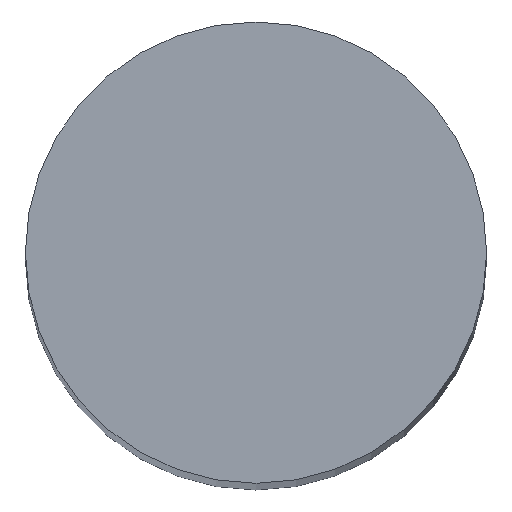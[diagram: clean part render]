
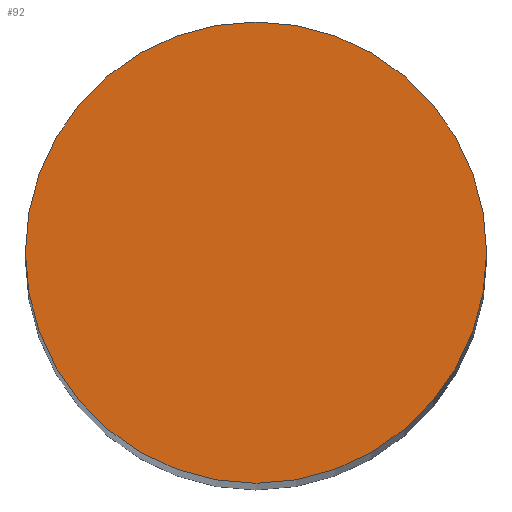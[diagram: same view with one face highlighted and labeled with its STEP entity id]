
A CAD part, top view. The second image highlights one B-rep face of the part: STEP entity #92.
In plain terms, the highlighted planar face has unit normal (0, 0, 1).
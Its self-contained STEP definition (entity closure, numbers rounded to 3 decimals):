
#16 = ORIENTED_EDGE ( 'NONE', *, *, #80, .T. ) ;
#80 = EDGE_CURVE ( 'NONE', #109, #109, #281, .T. ) ;
#92 = ADVANCED_FACE ( 'NONE', ( #245 ), #165, .T. ) ;
#109 = VERTEX_POINT ( 'NONE', #239 ) ;
#114 = CARTESIAN_POINT ( 'NONE',  ( 0., 0., 100. ) ) ;
#123 = AXIS2_PLACEMENT_3D ( 'NONE', #114, #139, #329 ) ;
#139 = DIRECTION ( 'NONE',  ( 0., 0., 1. ) ) ;
#161 = AXIS2_PLACEMENT_3D ( 'NONE', #223, #304, #267 ) ;
#165 = PLANE ( 'NONE',  #123 ) ;
#223 = CARTESIAN_POINT ( 'NONE',  ( 0., 0., 100. ) ) ;
#239 = CARTESIAN_POINT ( 'NONE',  ( 6., 0., 100. ) ) ;
#245 = FACE_OUTER_BOUND ( 'NONE', #338, .T. ) ;
#267 = DIRECTION ( 'NONE',  ( 1., 0., 0. ) ) ;
#281 = CIRCLE ( 'NONE', #161, 6. ) ;
#304 = DIRECTION ( 'NONE',  ( 0., 0., 1. ) ) ;
#329 = DIRECTION ( 'NONE',  ( 1., 0., 0. ) ) ;
#338 = EDGE_LOOP ( 'NONE', ( #16 ) ) ;
